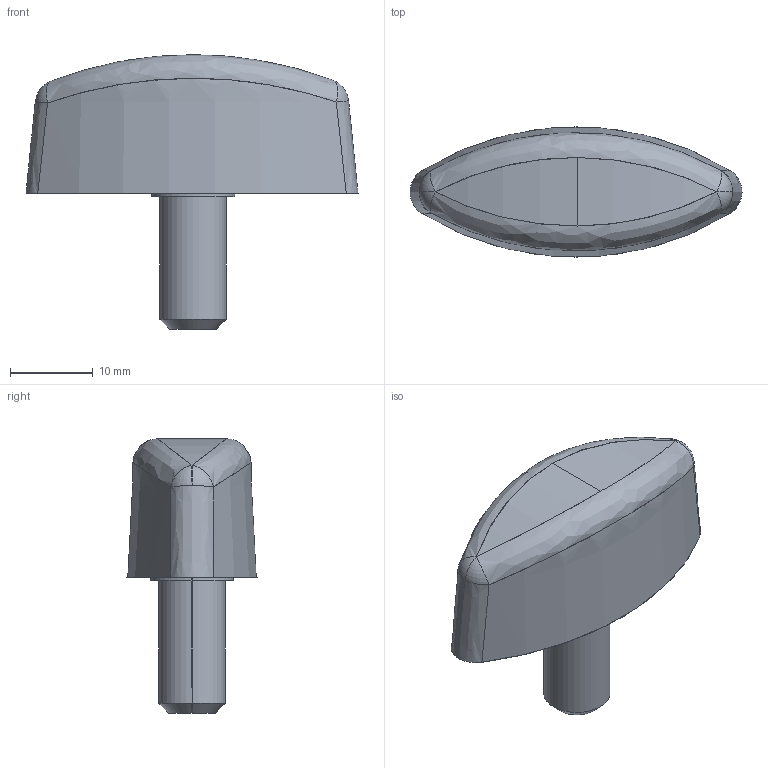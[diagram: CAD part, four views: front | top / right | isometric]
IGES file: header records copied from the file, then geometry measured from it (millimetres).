
Start section: SolidWorks IGES file using analytic representation for surfaces
Global section: file name: X:\11_SW2020-Inv2020\00_全2021-11新製品まで\l\LS8X16B\ls8x16b.IGS; native system: SolidWorks 2020; preprocessor: SolidWorks 2020; author: ImaoCorp; date: 211025.115705; units: millimetre
Bounding box: 40.01 x 15.7 x 33.1 mm (x, y, z)
Surface area: 2507.3 mm2 (no closed solid volume)
Topology: 0 solids, 0 shells, 21 faces, 302 edges, 302 vertices
Faces by surface type: revolution 14, bspline 7
